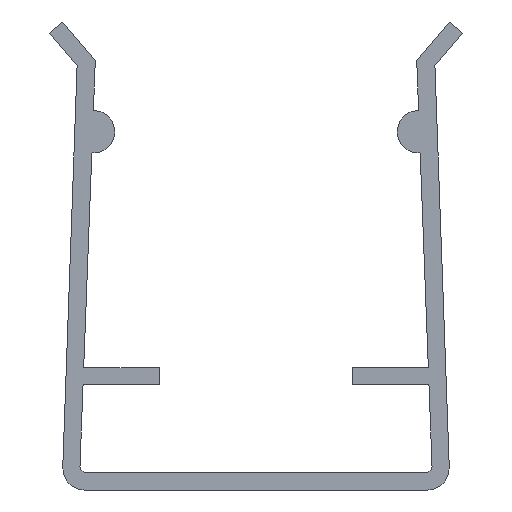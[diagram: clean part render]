
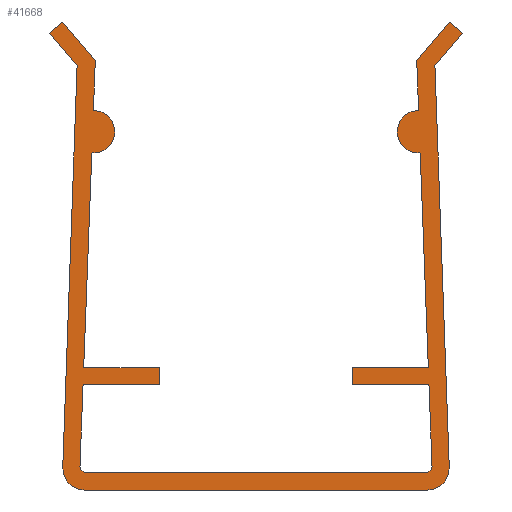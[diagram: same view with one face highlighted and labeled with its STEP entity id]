
A CAD part, left-side view. The second image highlights one B-rep face of the part: STEP entity #41668.
In plain terms, the highlighted planar face has unit normal (-1, 0, 0).
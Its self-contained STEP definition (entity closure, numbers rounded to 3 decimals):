
#2331=FACE_OUTER_BOUND('',#4345,.T.);
#4345=EDGE_LOOP('',(#37916,#37917,#37918,#37919,#37920,#37921,#37922,#37923,
#37924,#37925,#37926,#37927,#37928,#37929,#37930,#37931,#37932,#37933,#37934,
#37935,#37936,#37937,#37938,#37939,#37940,#37941,#37942,#37943));
#4646=CIRCLE('',#43093,1.);
#4647=CIRCLE('',#43099,0.3);
#4948=CIRCLE('',#44275,1.);
#4949=CIRCLE('',#44279,0.3);
#4950=CIRCLE('',#44288,1.);
#4951=CIRCLE('',#44299,1.);
#5201=LINE('',#55486,#10631);
#8631=LINE('',#62937,#14061);
#8635=LINE('',#62944,#14065);
#8638=LINE('',#62950,#14068);
#8641=LINE('',#62956,#14071);
#8646=LINE('',#62968,#14076);
#8657=LINE('',#62990,#14087);
#8664=LINE('',#63007,#14094);
#8670=LINE('',#63019,#14100);
#10349=LINE('',#66979,#15779);
#10351=LINE('',#66983,#15781);
#10354=LINE('',#66991,#15784);
#10357=LINE('',#66996,#15787);
#10358=LINE('',#66999,#15788);
#10361=LINE('',#67004,#15791);
#10362=LINE('',#67007,#15792);
#10367=LINE('',#67015,#15797);
#10370=LINE('',#67024,#15800);
#10371=LINE('',#67026,#15801);
#10378=LINE('',#67040,#15808);
#10380=LINE('',#67046,#15810);
#10381=LINE('',#67048,#15811);
#10631=VECTOR('',#44586,10.);
#14061=VECTOR('',#50788,10.);
#14065=VECTOR('',#50796,10.);
#14068=VECTOR('',#50803,10.);
#14071=VECTOR('',#50810,10.);
#14076=VECTOR('',#50825,10.);
#14087=VECTOR('',#50840,10.);
#14094=VECTOR('',#50859,10.);
#14100=VECTOR('',#50869,10.);
#15779=VECTOR('',#54890,10.);
#15781=VECTOR('',#54894,10.);
#15784=VECTOR('',#54903,10.);
#15787=VECTOR('',#54908,10.);
#15788=VECTOR('',#54911,10.);
#15791=VECTOR('',#54916,10.);
#15792=VECTOR('',#54919,10.);
#15797=VECTOR('',#54928,10.);
#15800=VECTOR('',#54939,10.);
#15801=VECTOR('',#54942,10.);
#15808=VECTOR('',#54961,10.);
#15810=VECTOR('',#54969,10.);
#15811=VECTOR('',#54972,10.);
#16055=VERTEX_POINT('',#55483);
#16056=VERTEX_POINT('',#55485);
#18690=VERTEX_POINT('',#62934);
#18691=VERTEX_POINT('',#62936);
#18692=VERTEX_POINT('',#62942);
#18693=VERTEX_POINT('',#62948);
#18694=VERTEX_POINT('',#62954);
#18695=VERTEX_POINT('',#62960);
#18696=VERTEX_POINT('',#62966);
#18705=VERTEX_POINT('',#62988);
#18706=VERTEX_POINT('',#62992);
#18709=VERTEX_POINT('',#63006);
#18713=VERTEX_POINT('',#63018);
#19821=VERTEX_POINT('',#66972);
#19822=VERTEX_POINT('',#66974);
#19823=VERTEX_POINT('',#66978);
#19824=VERTEX_POINT('',#66982);
#19825=VERTEX_POINT('',#66986);
#19826=VERTEX_POINT('',#66990);
#19827=VERTEX_POINT('',#66994);
#19828=VERTEX_POINT('',#66998);
#19829=VERTEX_POINT('',#67002);
#19830=VERTEX_POINT('',#67006);
#19831=VERTEX_POINT('',#67013);
#19832=VERTEX_POINT('',#67017);
#19833=VERTEX_POINT('',#67022);
#19834=VERTEX_POINT('',#67038);
#19835=VERTEX_POINT('',#67042);
#20089=EDGE_CURVE('',#16056,#16055,#5201,.T.);
#23815=EDGE_CURVE('',#18690,#18691,#8631,.T.);
#23819=EDGE_CURVE('',#18690,#18692,#8635,.T.);
#23822=EDGE_CURVE('',#18692,#18693,#8638,.T.);
#23825=EDGE_CURVE('',#18694,#18693,#8641,.T.);
#23828=EDGE_CURVE('',#18695,#18694,#4646,.T.);
#23831=EDGE_CURVE('',#18696,#18695,#8646,.T.);
#23842=EDGE_CURVE('',#18696,#18705,#8657,.T.);
#23843=EDGE_CURVE('',#18706,#16056,#4647,.T.);
#23850=EDGE_CURVE('',#18706,#18709,#8664,.T.);
#23856=EDGE_CURVE('',#18709,#18713,#8670,.T.);
#25834=EDGE_CURVE('',#19821,#19822,#4948,.T.);
#25836=EDGE_CURVE('',#19823,#19822,#10349,.T.);
#25838=EDGE_CURVE('',#19824,#19823,#10351,.T.);
#25841=EDGE_CURVE('',#16055,#19825,#4949,.T.);
#25842=EDGE_CURVE('',#19824,#19826,#10354,.T.);
#25845=EDGE_CURVE('',#19825,#19827,#10357,.T.);
#25846=EDGE_CURVE('',#19826,#19828,#10358,.T.);
#25849=EDGE_CURVE('',#19827,#19829,#10361,.T.);
#25850=EDGE_CURVE('',#19830,#19828,#10362,.T.);
#25855=EDGE_CURVE('',#19829,#19831,#10367,.T.);
#25856=EDGE_CURVE('',#19830,#19832,#4950,.T.);
#25859=EDGE_CURVE('',#19833,#19831,#10370,.T.);
#25860=EDGE_CURVE('',#19833,#19832,#10371,.T.);
#25867=EDGE_CURVE('',#19834,#19821,#10378,.T.);
#25869=EDGE_CURVE('',#19835,#19834,#4951,.T.);
#25870=EDGE_CURVE('',#18691,#19835,#10380,.T.);
#25871=EDGE_CURVE('',#18713,#18705,#10381,.T.);
#37916=ORIENTED_EDGE('',*,*,#25859,.F.);
#37917=ORIENTED_EDGE('',*,*,#25860,.T.);
#37918=ORIENTED_EDGE('',*,*,#25856,.F.);
#37919=ORIENTED_EDGE('',*,*,#25850,.T.);
#37920=ORIENTED_EDGE('',*,*,#25846,.F.);
#37921=ORIENTED_EDGE('',*,*,#25842,.F.);
#37922=ORIENTED_EDGE('',*,*,#25838,.T.);
#37923=ORIENTED_EDGE('',*,*,#25836,.T.);
#37924=ORIENTED_EDGE('',*,*,#25834,.F.);
#37925=ORIENTED_EDGE('',*,*,#25867,.F.);
#37926=ORIENTED_EDGE('',*,*,#25869,.F.);
#37927=ORIENTED_EDGE('',*,*,#25870,.F.);
#37928=ORIENTED_EDGE('',*,*,#23815,.F.);
#37929=ORIENTED_EDGE('',*,*,#23819,.T.);
#37930=ORIENTED_EDGE('',*,*,#23822,.T.);
#37931=ORIENTED_EDGE('',*,*,#23825,.F.);
#37932=ORIENTED_EDGE('',*,*,#23828,.F.);
#37933=ORIENTED_EDGE('',*,*,#23831,.F.);
#37934=ORIENTED_EDGE('',*,*,#23842,.T.);
#37935=ORIENTED_EDGE('',*,*,#25871,.F.);
#37936=ORIENTED_EDGE('',*,*,#23856,.F.);
#37937=ORIENTED_EDGE('',*,*,#23850,.F.);
#37938=ORIENTED_EDGE('',*,*,#23843,.T.);
#37939=ORIENTED_EDGE('',*,*,#20089,.T.);
#37940=ORIENTED_EDGE('',*,*,#25841,.T.);
#37941=ORIENTED_EDGE('',*,*,#25845,.T.);
#37942=ORIENTED_EDGE('',*,*,#25849,.T.);
#37943=ORIENTED_EDGE('',*,*,#25855,.T.);
#39654=PLANE('',#44302);
#41668=ADVANCED_FACE('',(#2331),#39654,.F.);
#43093=AXIS2_PLACEMENT_3D('',#62962,#50817,#50818);
#43099=AXIS2_PLACEMENT_3D('',#62993,#50843,#50844);
#44275=AXIS2_PLACEMENT_3D('',#66975,#54885,#54886);
#44279=AXIS2_PLACEMENT_3D('',#66988,#54899,#54900);
#44288=AXIS2_PLACEMENT_3D('',#67018,#54931,#54932);
#44299=AXIS2_PLACEMENT_3D('',#67044,#54965,#54966);
#44302=AXIS2_PLACEMENT_3D('',#67049,#54973,#54974);
#44586=DIRECTION('',(0.,1.,0.));
#50788=DIRECTION('',(0.,0.643,-0.766));
#50796=DIRECTION('',(0.,0.766,0.643));
#50803=DIRECTION('',(0.,0.643,-0.766));
#50810=DIRECTION('',(0.,0.038,0.999));
#50817=DIRECTION('center_axis',(1.,0.,0.));
#50818=DIRECTION('ref_axis',(0.,-0.075,-0.997));
#50825=DIRECTION('',(0.,0.038,0.999));
#50840=DIRECTION('',(0.,1.,0.));
#50843=DIRECTION('center_axis',(1.,0.,0.));
#50844=DIRECTION('ref_axis',(0.,-0.999,0.038));
#50859=DIRECTION('',(0.,0.038,0.999));
#50869=DIRECTION('',(0.,1.,0.));
#54885=DIRECTION('center_axis',(1.,0.,0.));
#54886=DIRECTION('ref_axis',(0.,0.,-1.));
#54890=DIRECTION('',(0.,0.036,-0.999));
#54894=DIRECTION('',(0.,-0.643,-0.766));
#54899=DIRECTION('center_axis',(1.,0.,0.));
#54900=DIRECTION('ref_axis',(0.,0.,-1.));
#54903=DIRECTION('',(0.,-0.766,0.643));
#54908=DIRECTION('',(0.,-0.038,0.999));
#54911=DIRECTION('',(0.,-0.643,-0.766));
#54916=DIRECTION('',(0.,-1.,0.));
#54919=DIRECTION('',(0.,-0.038,0.999));
#54928=DIRECTION('',(0.,0.,1.));
#54931=DIRECTION('center_axis',(1.,0.,0.));
#54932=DIRECTION('ref_axis',(0.,0.,1.));
#54939=DIRECTION('',(0.,-1.,0.));
#54942=DIRECTION('',(0.,-0.038,0.999));
#54961=DIRECTION('',(0.,1.,0.));
#54965=DIRECTION('center_axis',(1.,0.,0.));
#54966=DIRECTION('ref_axis',(0.,-0.999,0.036));
#54969=DIRECTION('',(0.,-0.036,-0.999));
#54972=DIRECTION('',(0.,0.,1.));
#54973=DIRECTION('center_axis',(1.,0.,0.));
#54974=DIRECTION('ref_axis',(0.,1.,0.));
#55483=CARTESIAN_POINT('',(0.,7.88,0.8));
#55485=CARTESIAN_POINT('',(0.,-7.92,0.8));
#55486=CARTESIAN_POINT('',(0.,-7.92,0.8));
#62934=CARTESIAN_POINT('',(0.,-9.633,21.286));
#62936=CARTESIAN_POINT('',(0.,-8.353,19.761));
#62937=CARTESIAN_POINT('',(0.,-9.633,21.286));
#62942=CARTESIAN_POINT('',(0.,-9.02,21.8));
#62944=CARTESIAN_POINT('',(0.,-9.633,21.286));
#62948=CARTESIAN_POINT('',(0.,-7.506,19.996));
#62950=CARTESIAN_POINT('',(0.,-9.02,21.8));
#62954=CARTESIAN_POINT('',(0.,-7.593,17.69));
#62956=CARTESIAN_POINT('',(0.,-7.593,17.69));
#62960=CARTESIAN_POINT('',(0.,-7.669,15.693));
#62962=CARTESIAN_POINT('Origin',(0.,-7.593,16.69));
#62966=CARTESIAN_POINT('',(0.,-8.046,5.7));
#62968=CARTESIAN_POINT('',(0.,-8.046,5.7));
#62988=CARTESIAN_POINT('',(0.,-4.524,5.7));
#62990=CARTESIAN_POINT('',(0.,-8.046,5.7));
#62992=CARTESIAN_POINT('',(0.,-8.22,1.111));
#62993=CARTESIAN_POINT('Origin',(0.,-7.92,1.1));
#63006=CARTESIAN_POINT('',(0.,-8.076,4.9));
#63007=CARTESIAN_POINT('',(0.,-8.22,1.111));
#63018=CARTESIAN_POINT('',(0.,-4.524,4.9));
#63019=CARTESIAN_POINT('',(0.,-8.076,4.9));
#66972=CARTESIAN_POINT('',(0.,7.984,0.));
#66974=CARTESIAN_POINT('',(0.,8.983,1.036));
#66975=CARTESIAN_POINT('Origin',(0.,7.984,1.));
#66978=CARTESIAN_POINT('',(0.,8.313,19.761));
#66979=CARTESIAN_POINT('',(0.,8.313,19.761));
#66982=CARTESIAN_POINT('',(0.,9.593,21.286));
#66983=CARTESIAN_POINT('',(0.,9.593,21.286));
#66986=CARTESIAN_POINT('',(0.,8.18,1.111));
#66988=CARTESIAN_POINT('Origin',(0.,7.88,1.1));
#66990=CARTESIAN_POINT('',(0.,8.98,21.8));
#66991=CARTESIAN_POINT('',(0.,9.593,21.286));
#66994=CARTESIAN_POINT('',(0.,8.036,4.9));
#66996=CARTESIAN_POINT('',(0.,8.18,1.111));
#66998=CARTESIAN_POINT('',(0.,7.466,19.996));
#66999=CARTESIAN_POINT('',(0.,8.98,21.8));
#67002=CARTESIAN_POINT('',(0.,4.484,4.9));
#67004=CARTESIAN_POINT('',(0.,8.036,4.9));
#67006=CARTESIAN_POINT('',(0.,7.553,17.69));
#67007=CARTESIAN_POINT('',(0.,7.553,17.69));
#67013=CARTESIAN_POINT('',(0.,4.484,5.7));
#67015=CARTESIAN_POINT('',(0.,4.484,4.9));
#67017=CARTESIAN_POINT('',(0.,7.629,15.693));
#67018=CARTESIAN_POINT('Origin',(0.,7.553,16.69));
#67022=CARTESIAN_POINT('',(0.,8.006,5.7));
#67024=CARTESIAN_POINT('',(0.,8.006,5.7));
#67026=CARTESIAN_POINT('',(0.,8.006,5.7));
#67038=CARTESIAN_POINT('',(0.,-8.024,0.));
#67040=CARTESIAN_POINT('',(0.,-8.024,0.));
#67042=CARTESIAN_POINT('',(0.,-9.023,1.036));
#67044=CARTESIAN_POINT('Origin',(0.,-8.024,1.));
#67046=CARTESIAN_POINT('',(0.,-8.353,19.761));
#67048=CARTESIAN_POINT('',(0.,-4.524,4.9));
#67049=CARTESIAN_POINT('Origin',(0.,-0.02,10.9));
